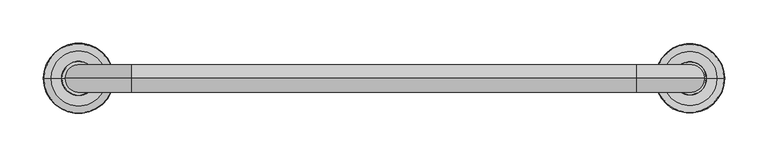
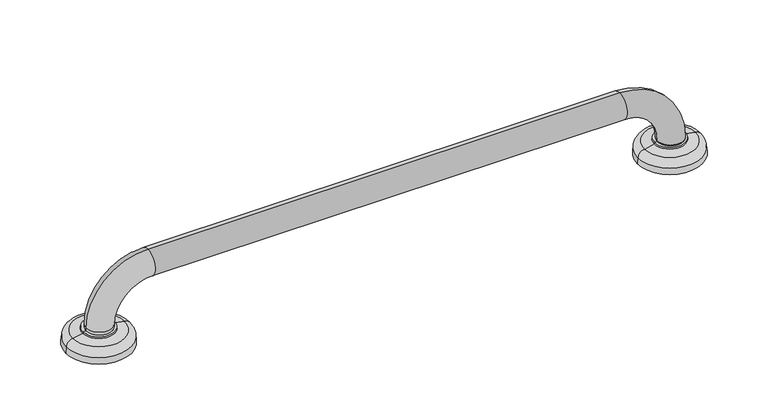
"""IFC4 building model written with IfcOpenShell, lengths in millimetres: flow terminal geometry, Deca_Barra de Apoio Conforto - Aco Inox_2310.C.070_70 cm : 2310.C.070.ESC_Aço Inox Escovado ESC."""

from ifc_helpers import new_model, si_unit, point, frame, origin, place, context, project, spatial, polyline, circle_curve, ellipse_curve, trimmed, source, transform, mapped, element, save
from ifc_brep_helpers import plane_surface, cylinder_surface, revolved_surface, advanced_brep


def flow_terminal_2aad2271(model_context):
    return source(origin(), model_context, "Body", "AdvancedBrep", [
        advanced_brep(
        [(-335.0625, 0.0, 17.0095788), (-367.0625, 0.0, 17.0095788), (336.9375, 0.0, 17.0095788), (368.9375, 0.0, 17.0095788), (-290.8180893, 0.0, 100.005002), (-290.8180893, 0.0, 68.005002), (290.4090605, 0.0, 68.005002), (290.4090605, 0.0, 100.005002), (-335.0625, 0.0, 23.7605913), (-367.0625, 0.0, 23.7605913), (368.9375, 0.0, 21.4765625), (336.9375, 0.0, 21.4765625)],
        [
            (0, 1, circle_curve(frame((-351.0625, 0.0, 17.0095788), z_axis=(0.0, 0.0, -1.0), x_axis=(-1.0, 0.0, 0.0)), 16.0)),
            (1, 0, circle_curve(frame((-351.0625, 0.0, 17.0095788), z_axis=(0.0, 0.0, -1.0), x_axis=(-1.0, 0.0, 0.0)), 16.0)),
            (2, 3, circle_curve(frame((352.9375, 0.0, 17.0095788), z_axis=(0.0, 0.0, -1.0), x_axis=(1.0, 0.0, 0.0)), 16.0)),
            (3, 2, circle_curve(frame((352.9375, 0.0, 17.0095788), z_axis=(0.0, 0.0, -1.0), x_axis=(1.0, 0.0, 0.0)), 16.0)),
            (4, 5, circle_curve(frame((-290.8180893, 0.0, 84.005002), z_axis=(1.0, 0.0, 0.0), x_axis=(0.0, 0.0, 1.0)), 16.0)),
            (5, 6),
            (6, 7, circle_curve(frame((290.4090605, 0.0, 84.005002), z_axis=(-1.0, 0.0, 0.0), x_axis=(0.0, 0.0, 1.0)), 16.0)),
            (7, 4),
            (5, 4, circle_curve(frame((-290.8180893, 0.0, 84.005002), z_axis=(1.0, 0.0, 0.0), x_axis=(0.0, 0.0, 1.0)), 16.0)),
            (7, 6, circle_curve(frame((290.4090605, 0.0, 84.005002), z_axis=(-1.0, 0.0, 0.0), x_axis=(0.0, 0.0, 1.0)), 16.0)),
            (0, 8),
            (8, 9, circle_curve(frame((-351.0625, 0.0, 23.7605913), z_axis=(0.0, 0.0, -1.0), x_axis=(-1.0, 0.0, 0.0)), 16.0)),
            (9, 1),
            (9, 8, circle_curve(frame((-351.0625, 0.0, 23.7605913), z_axis=(0.0, 0.0, -1.0), x_axis=(-1.0, 0.0, 0.0)), 16.0)),
            (4, 9, circle_curve(frame((-290.8180893, 0.0, 23.7605913), z_axis=(0.0, -1.0, 0.0), x_axis=(-1.0, 0.0, 0.0)), 76.2444106)),
            (8, 5, circle_curve(frame((-290.8180893, 0.0, 23.7605913), z_axis=(0.0, 1.0, 0.0), x_axis=(-1.0, 0.0, 0.0)), 44.2444106)),
            (10, 7, circle_curve(frame((290.4090605, 0.0, 21.4765625), z_axis=(0.0, -1.0, 0.0), x_axis=(0.0, 0.0, 1.0)), 78.5284395)),
            (6, 11, circle_curve(frame((290.4090605, 0.0, 21.4765625), z_axis=(0.0, 1.0, 0.0), x_axis=(0.0, 0.0, 1.0)), 46.5284395)),
            (11, 10, circle_curve(frame((352.9375, 0.0, 21.4765625), z_axis=(0.0, 0.0, 1.0), x_axis=(1.0, 0.0, 0.0)), 16.0)),
            (10, 11, circle_curve(frame((352.9375, 0.0, 21.4765625), z_axis=(0.0, 0.0, 1.0), x_axis=(1.0, 0.0, 0.0)), 16.0)),
            (11, 2),
            (3, 10),
        ],
        [
            plane_surface(frame((-351.0625, 0.0, 17.0095788), z_axis=(0.0, 0.0, -1.0), x_axis=(0.0, -1.0, 0.0))),
            plane_surface(frame((352.9375, 0.0, 17.0095788), z_axis=(0.0, 0.0, -1.0), x_axis=(0.0, -1.0, 0.0))),
            cylinder_surface(frame((-290.8180893, 0.0, 84.005002), z_axis=(-1.0, 0.0, 0.0), x_axis=(0.0, 0.0, 1.0)), 16.0),
            cylinder_surface(frame((-351.0625, 0.0, 17.0095788), z_axis=(0.0, 0.0, -1.0), x_axis=(-1.0, 0.0, 0.0)), 16.0),
            revolved_surface(trimmed(ellipse_curve(frame((-351.0625, 0.0, 23.7605913), z_axis=(0.0, 0.0, -1.0), x_axis=(-1.0, 0.0, 0.0)), 16.0, 16.0), [point((-335.0625, 0.0, 23.7605913))], [point((-367.0625, 0.0, 23.7605913))], True, "CARTESIAN"), (-290.8180893, 0.0, 23.7605913), (0.0, 1.0, 0.0)),
            revolved_surface(trimmed(ellipse_curve(frame((-351.0625, 0.0, 23.7605913), z_axis=(0.0, 0.0, -1.0), x_axis=(-1.0, 0.0, 0.0)), 16.0, 16.0), [point((-367.0625, 0.0, 23.7605913))], [point((-335.0625, 0.0, 23.7605913))], True, "CARTESIAN"), (-290.8180893, 0.0, 23.7605913), (0.0, 1.0, 0.0)),
            revolved_surface(trimmed(ellipse_curve(frame((290.4090605, 0.0, 84.005002), z_axis=(-1.0, 0.0, 0.0), x_axis=(0.0, 0.0, 1.0)), 16.0, 16.0), [point((290.4090605, 0.0, 68.005002))], [point((290.4090605, 0.0, 100.005002))], True, "CARTESIAN"), (290.4090605, 0.0, 21.4765625), (0.0, 1.0, 0.0)),
            revolved_surface(trimmed(ellipse_curve(frame((290.4090605, 0.0, 84.005002), z_axis=(-1.0, 0.0, 0.0), x_axis=(0.0, 0.0, 1.0)), 16.0, 16.0), [point((290.4090605, 0.0, 100.005002))], [point((290.4090605, 0.0, 68.005002))], True, "CARTESIAN"), (290.4090605, 0.0, 21.4765625), (0.0, 1.0, 0.0)),
            cylinder_surface(frame((352.9375, 0.0, 21.4765625), z_axis=(0.0, 0.0, 1.0), x_axis=(1.0, 0.0, 0.0)), 16.0),
        ],
        [
            (0, [[1, 2]]),
            (1, [[3, 4]]),
            (2, [[5, 6, 7, 8]]),
            (2, [[9, -8, 10, -6]]),
            (3, [[-1, 11, 12, 13]]),
            (3, [[-2, -13, 14, -11]]),
            (4, [[15, -12, 16, -5]]),
            (5, [[-16, -14, -15, -9]]),
            (6, [[17, -7, 18, 19]]),
            (7, [[-18, -10, -17, 20]]),
            (8, [[-19, 21, -4, 22]]),
            (8, [[-20, -22, -3, -21]]),
        ],
    ),
        advanced_brep(
        [(352.2375907, 0.0, 0.0), (312.2375907, 0.0, 0.0), (392.2375907, 0.0, 0.0), (371.0202021, 0.0, 20.5), (333.4549793, 0.0, 20.5), (352.2375907, 0.0, 20.5), (371.4823092, 0.0, 18.7753928), (332.9928722, 0.0, 18.7753928), (383.3364595, 0.0, 16.2150408), (321.1387218, 0.0, 16.2150408), (391.5363564, 0.0, 8.0151439), (312.9388249, 0.0, 8.0151439)],
        [
            (0, 1),
            (1, 2, circle_curve(frame((352.2375907, 0.0, 0.0), z_axis=(0.0, 0.0, -1.0), x_axis=(-1.0, 0.0, 0.0)), 40.0)),
            (2, 0),
            (2, 1, circle_curve(frame((352.2375907, 0.0, 0.0), z_axis=(0.0, 0.0, -1.0), x_axis=(-1.0, 0.0, 0.0)), 40.0)),
            (3, 4, circle_curve(frame((352.2375907, 0.0, 20.5), z_axis=(0.0, 0.0, 1.0), x_axis=(-1.0, 0.0, 0.0)), 18.7826114)),
            (4, 5),
            (5, 3),
            (4, 3, circle_curve(frame((352.2375907, 0.0, 20.5), z_axis=(0.0, 0.0, 1.0), x_axis=(-1.0, 0.0, 0.0)), 18.7826114)),
            (6, 7, circle_curve(frame((352.2375907, 0.0, 18.7753928), z_axis=(0.0, 0.0, 1.0), x_axis=(-1.0, 0.0, 0.0)), 19.2447185)),
            (7, 4),
            (3, 6),
            (7, 6, circle_curve(frame((352.2375907, 0.0, 18.7753928), z_axis=(0.0, 0.0, 1.0), x_axis=(-1.0, 0.0, 0.0)), 19.2447185)),
            (8, 9, circle_curve(frame((352.2375907, 0.0, 16.2150408), z_axis=(0.0, 0.0, 1.0), x_axis=(-1.0, 0.0, 0.0)), 31.0988689)),
            (9, 7),
            (6, 8),
            (9, 8, circle_curve(frame((352.2375907, 0.0, 16.2150408), z_axis=(0.0, 0.0, 1.0), x_axis=(-1.0, 0.0, 0.0)), 31.0988689)),
            (10, 11, circle_curve(frame((352.2375907, 0.0, 8.0151439), z_axis=(0.0, 0.0, 1.0), x_axis=(-1.0, 0.0, 0.0)), 39.2987658)),
            (11, 9, circle_curve(frame((321.1387218, 0.0, 8.0151439), z_axis=(0.0, 1.0, 0.0), x_axis=(1.0, 0.0, 0.0)), 8.1998969)),
            (8, 10, circle_curve(frame((383.3364595, 0.0, 8.0151439), z_axis=(0.0, 1.0, 0.0), x_axis=(-1.0, 0.0, 0.0)), 8.1998969)),
            (11, 10, circle_curve(frame((352.2375907, 0.0, 8.0151439), z_axis=(0.0, 0.0, 1.0), x_axis=(-1.0, 0.0, 0.0)), 39.2987658)),
            (1, 11),
            (10, 2),
        ],
        [
            plane_surface(frame((352.2375907, 0.0, 0.0), z_axis=(0.0, 0.0, -1.0), x_axis=(-1.0, 0.0, 0.0))),
            plane_surface(frame((352.2375907, 0.0, 20.5), z_axis=(0.0, 0.0, 1.0), x_axis=(-1.0, 0.0, 0.0))),
            revolved_surface(polyline([(333.4549793, 0.0, 20.5), (332.9928722, 0.0, 18.7753928)]), (352.2375907, 0.0, 19.8135066), (0.0, 0.0, -1.0)),
            revolved_surface(polyline([(332.9928722, 0.0, 18.7753928), (321.1387218, 0.0, 16.2150408)]), (352.2375907, 0.0, 19.8135066), (0.0, 0.0, -1.0)),
            revolved_surface(trimmed(ellipse_curve(frame((321.1387218, 0.0, 8.0151439), z_axis=(0.0, -1.0, 0.0), x_axis=(1.0, 0.0, 0.0)), 8.1998969, 8.1998969), [point((321.1387218, 0.0, 16.2150408))], [point((312.9388249, 0.0, 8.0151439))], True, "CARTESIAN"), (352.2375907, 0.0, 19.8135066), (0.0, 0.0, -1.0)),
            revolved_surface(polyline([(312.9388249, 0.0, 8.0151439), (312.2375907, 0.0, 0.0)]), (352.2375907, 0.0, 19.8135066), (0.0, 0.0, -1.0)),
        ],
        [
            (0, [[1, 2, 3]]),
            (0, [[-3, 4, -1]]),
            (1, [[5, 6, 7]]),
            (1, [[8, -7, -6]]),
            (2, [[9, 10, -5, 11]]),
            (2, [[12, -11, -8, -10]]),
            (3, [[13, 14, -9, 15]]),
            (3, [[16, -15, -12, -14]]),
            (4, [[17, 18, -13, 19]]),
            (4, [[20, -19, -16, -18]]),
            (5, [[-2, 21, -17, 22]]),
            (5, [[-4, -22, -20, -21]]),
        ],
    ),
        advanced_brep(
        [(-351.7637342, 0.0, 0.0), (-392.3138249, 0.0, 0.0), (-311.2136436, 0.0, 0.0), (-332.4310321, 0.0, 20.5), (-371.0964363, 0.0, 20.5), (-351.7637342, 0.0, 20.5), (-331.968925, 0.0, 18.7753928), (-371.5585435, 0.0, 18.7753928), (-320.1147747, 0.0, 16.2150408), (-383.4126938, 0.0, 16.2150408), (-311.9148778, 0.0, 8.0151439), (-391.6125907, 0.0, 8.0151439)],
        [
            (0, 1),
            (1, 2, circle_curve(frame((-351.7637342, 0.0, 0.0), z_axis=(0.0, 0.0, -1.0), x_axis=(-1.0, 0.0, 0.0)), 40.5500907)),
            (2, 0),
            (2, 1, circle_curve(frame((-351.7637342, 0.0, 0.0), z_axis=(0.0, 0.0, -1.0), x_axis=(-1.0, 0.0, 0.0)), 40.5500907)),
            (3, 4, circle_curve(frame((-351.7637342, 0.0, 20.5), z_axis=(0.0, 0.0, 1.0), x_axis=(-1.0, 0.0, 0.0)), 19.3327021)),
            (4, 5),
            (5, 3),
            (4, 3, circle_curve(frame((-351.7637342, 0.0, 20.5), z_axis=(0.0, 0.0, 1.0), x_axis=(-1.0, 0.0, 0.0)), 19.3327021)),
            (6, 7, circle_curve(frame((-351.7637342, 0.0, 18.7753928), z_axis=(0.0, 0.0, 1.0), x_axis=(-1.0, 0.0, 0.0)), 19.7948092)),
            (7, 4),
            (3, 6),
            (7, 6, circle_curve(frame((-351.7637342, 0.0, 18.7753928), z_axis=(0.0, 0.0, 1.0), x_axis=(-1.0, 0.0, 0.0)), 19.7948092)),
            (8, 9, circle_curve(frame((-351.7637342, 0.0, 16.2150408), z_axis=(0.0, 0.0, 1.0), x_axis=(-1.0, 0.0, 0.0)), 31.6489595)),
            (9, 7),
            (6, 8),
            (9, 8, circle_curve(frame((-351.7637342, 0.0, 16.2150408), z_axis=(0.0, 0.0, 1.0), x_axis=(-1.0, 0.0, 0.0)), 31.6489595)),
            (10, 11, circle_curve(frame((-351.7637342, 0.0, 8.0151439), z_axis=(0.0, 0.0, 1.0), x_axis=(-1.0, 0.0, 0.0)), 39.8488564)),
            (11, 9, circle_curve(frame((-383.4126938, 0.0, 8.0151439), z_axis=(0.0, 1.0, 0.0), x_axis=(1.0, 0.0, 0.0)), 8.1998969)),
            (8, 10, circle_curve(frame((-320.1147747, 0.0, 8.0151439), z_axis=(0.0, 1.0, 0.0), x_axis=(-1.0, 0.0, 0.0)), 8.1998969)),
            (11, 10, circle_curve(frame((-351.7637342, 0.0, 8.0151439), z_axis=(0.0, 0.0, 1.0), x_axis=(-1.0, 0.0, 0.0)), 39.8488564)),
            (1, 11),
            (10, 2),
        ],
        [
            plane_surface(frame((-351.7637342, 0.0, 0.0), z_axis=(0.0, 0.0, -1.0), x_axis=(-1.0, 0.0, 0.0))),
            plane_surface(frame((-351.7637342, 0.0, 20.5), z_axis=(0.0, 0.0, 1.0), x_axis=(-1.0, 0.0, 0.0))),
            revolved_surface(polyline([(-371.0964363, 0.0, 20.5), (-371.5585435, 0.0, 18.7753928)]), (-351.7637342, 0.0, 19.8135066), (0.0, 0.0, -1.0)),
            revolved_surface(polyline([(-371.5585435, 0.0, 18.7753928), (-383.4126938, 0.0, 16.2150408)]), (-351.7637342, 0.0, 19.8135066), (0.0, 0.0, -1.0)),
            revolved_surface(trimmed(ellipse_curve(frame((-383.4126938, 0.0, 8.0151439), z_axis=(0.0, -1.0, 0.0), x_axis=(1.0, 0.0, 0.0)), 8.1998969, 8.1998969), [point((-383.4126938, 0.0, 16.2150408))], [point((-391.6125907, 0.0, 8.0151439))], True, "CARTESIAN"), (-351.7637342, 0.0, 19.8135066), (0.0, 0.0, -1.0)),
            revolved_surface(polyline([(-391.6125907, 0.0, 8.0151439), (-392.3138249, 0.0, 0.0)]), (-351.7637342, 0.0, 19.8135066), (0.0, 0.0, -1.0)),
        ],
        [
            (0, [[1, 2, 3]]),
            (0, [[-3, 4, -1]]),
            (1, [[5, 6, 7]]),
            (1, [[8, -7, -6]]),
            (2, [[9, 10, -5, 11]]),
            (2, [[12, -11, -8, -10]]),
            (3, [[13, 14, -9, 15]]),
            (3, [[16, -15, -12, -14]]),
            (4, [[17, 18, -13, 19]]),
            (4, [[20, -19, -16, -18]]),
            (5, [[-2, 21, -17, 22]]),
            (5, [[-4, -22, -20, -21]]),
        ],
    ),
    ])


if __name__ == "__main__":
    model = new_model("IFC4")
    model_context = context("Model", 3, world=origin())
    ifc_project = project(units=[si_unit("LENGTHUNIT", "METRE", prefix="MILLI")], contexts=[model_context])
    site = spatial("IfcSite", under=ifc_project)
    building = spatial("IfcBuilding", under=site)
    placement = place(None, origin())
    flow_terminal_shape = flow_terminal_2aad2271(model_context)
    element("IfcFlowTerminal", 1, ObjectType="Deca_Barra de Apoio Conforto - Aco Inox_2310.C.070_70 cm : 2310.C.070.ESC_Aço Inox Escovado ESC", at=placement, inside=building, context=model_context, shape_type="MappedRepresentation", body=[
        mapped(flow_terminal_shape, transform((0.0, 0.0, 0.0), x_axis=(1.0, 0.0, 0.0), y_axis=(0.0, 1.0, 0.0), z_axis=(0.0, 0.0, 1.0))),
    ])
    save(model, "model.ifc")
